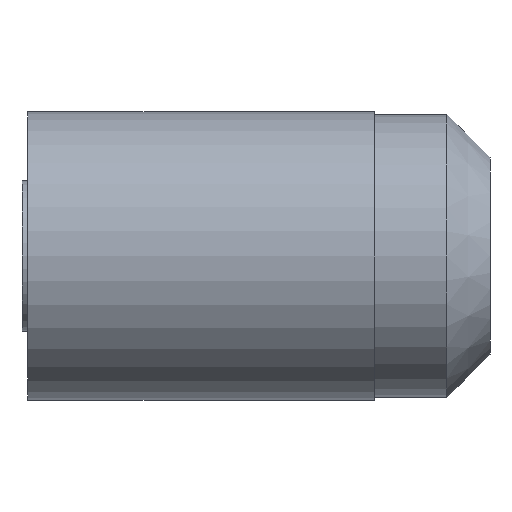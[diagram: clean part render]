
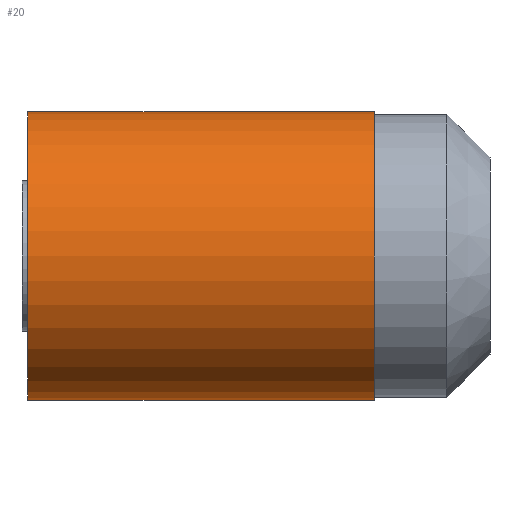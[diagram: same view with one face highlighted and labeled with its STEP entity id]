
A CAD part, left-side view. The second image highlights one B-rep face of the part: STEP entity #20.
In plain terms, the highlighted cylindrical face has radius 5 mm (diameter 10 mm), a full revolution.
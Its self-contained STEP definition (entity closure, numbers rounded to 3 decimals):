
#20 = ADVANCED_FACE ( 'NONE', ( #1729, #3423 ), #363, .T. ) ;
#337 = DIRECTION ( 'NONE',  ( 0., 0., -1. ) ) ;
#363 = CYLINDRICAL_SURFACE ( 'NONE', #1562, 5. ) ;
#413 = EDGE_CURVE ( 'NONE', #1395, #1395, #1677, .T. ) ;
#442 = DIRECTION ( 'NONE',  ( 0., -1., 0. ) ) ;
#724 = DIRECTION ( 'NONE',  ( 0., -1., 0. ) ) ;
#782 = AXIS2_PLACEMENT_3D ( 'NONE', #3413, #724, #3093 ) ;
#804 = EDGE_LOOP ( 'NONE', ( #882 ) ) ;
#853 = VERTEX_POINT ( 'NONE', #3341 ) ;
#882 = ORIENTED_EDGE ( 'NONE', *, *, #2979, .F. ) ;
#1302 = DIRECTION ( 'NONE',  ( 0., 0., -1. ) ) ;
#1395 = VERTEX_POINT ( 'NONE', #2024 ) ;
#1562 = AXIS2_PLACEMENT_3D ( 'NONE', #1707, #2459, #337 ) ;
#1677 = CIRCLE ( 'NONE', #2874, 5. ) ;
#1707 = CARTESIAN_POINT ( 'NONE',  ( 0., 0., 0. ) ) ;
#1729 = FACE_OUTER_BOUND ( 'NONE', #804, .T. ) ;
#2024 = CARTESIAN_POINT ( 'NONE',  ( 0., 16., -5. ) ) ;
#2260 = CARTESIAN_POINT ( 'NONE',  ( 0., 16., 0. ) ) ;
#2459 = DIRECTION ( 'NONE',  ( 0., -1., 0. ) ) ;
#2465 = EDGE_LOOP ( 'NONE', ( #3232 ) ) ;
#2874 = AXIS2_PLACEMENT_3D ( 'NONE', #2260, #442, #1302 ) ;
#2979 = EDGE_CURVE ( 'NONE', #853, #853, #3253, .T. ) ;
#3093 = DIRECTION ( 'NONE',  ( 0., 0., -1. ) ) ;
#3232 = ORIENTED_EDGE ( 'NONE', *, *, #413, .T. ) ;
#3253 = CIRCLE ( 'NONE', #782, 5. ) ;
#3341 = CARTESIAN_POINT ( 'NONE',  ( 0., 4., -5. ) ) ;
#3413 = CARTESIAN_POINT ( 'NONE',  ( 0., 4., 0. ) ) ;
#3423 = FACE_OUTER_BOUND ( 'NONE', #2465, .T. ) ;
